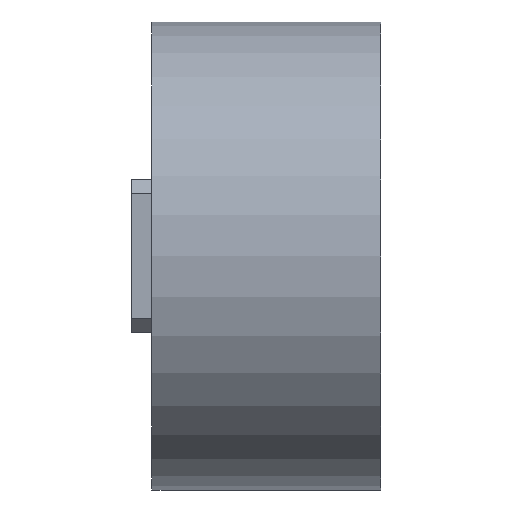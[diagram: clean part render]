
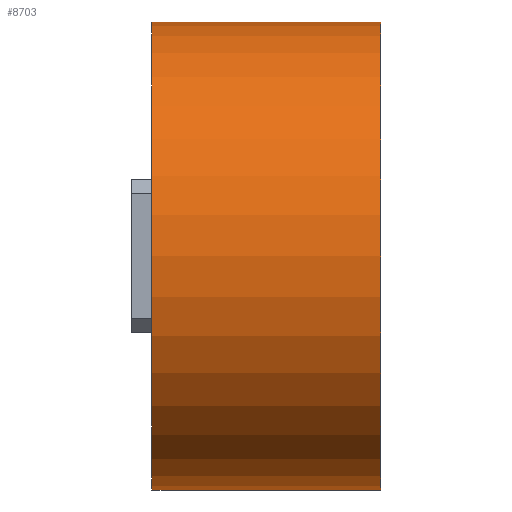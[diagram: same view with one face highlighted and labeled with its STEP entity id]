
A CAD part, left-side view. The second image highlights one B-rep face of the part: STEP entity #8703.
In plain terms, the highlighted cylindrical face has radius 65.837 mm (diameter 131.674 mm), a full revolution.
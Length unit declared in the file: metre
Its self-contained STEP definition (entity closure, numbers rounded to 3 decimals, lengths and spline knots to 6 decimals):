
#1236=CYLINDRICAL_SURFACE('',#9183,0.065837);
#1881=ORIENTED_EDGE('',*,*,#4848,.T.);
#1882=ORIENTED_EDGE('',*,*,#4857,.F.);
#4848=EDGE_CURVE('',#6336,#6336,#7384,.T.);
#4857=EDGE_CURVE('',#6345,#6345,#7385,.T.);
#6336=VERTEX_POINT('',#10896);
#6345=VERTEX_POINT('',#10915);
#7384=CIRCLE('',#9182,0.065837);
#7385=CIRCLE('',#9184,0.065837);
#7698=EDGE_LOOP('',(#1881));
#7699=EDGE_LOOP('',(#1882));
#8190=FACE_BOUND('',#7698,.T.);
#8191=FACE_BOUND('',#7699,.T.);
#8703=ADVANCED_FACE('',(#8190,#8191),#1236,.T.);
#9182=AXIS2_PLACEMENT_3D('',#10895,#9675,#9676);
#9183=AXIS2_PLACEMENT_3D('',#10913,#9685,#9686);
#9184=AXIS2_PLACEMENT_3D('',#10914,#9687,#9688);
#9675=DIRECTION('',(0.,-1.,0.));
#9676=DIRECTION('',(1.,0.,0.));
#9685=DIRECTION('',(0.,1.,0.));
#9686=DIRECTION('',(0.,0.,1.));
#9687=DIRECTION('',(0.,-1.,0.));
#9688=DIRECTION('',(1.,0.,0.));
#10895=CARTESIAN_POINT('',(0.,0.017,0.));
#10896=CARTESIAN_POINT('',(0.065837,0.017,0.));
#10913=CARTESIAN_POINT('',(0.,-0.007,0.));
#10914=CARTESIAN_POINT('',(0.,-0.0474,0.));
#10915=CARTESIAN_POINT('',(0.065837,-0.0474,0.));
